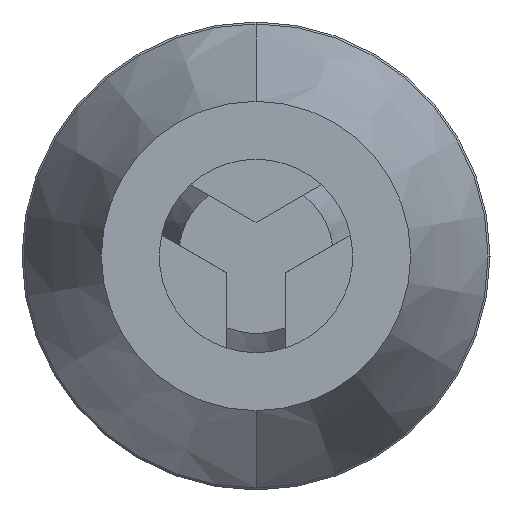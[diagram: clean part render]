
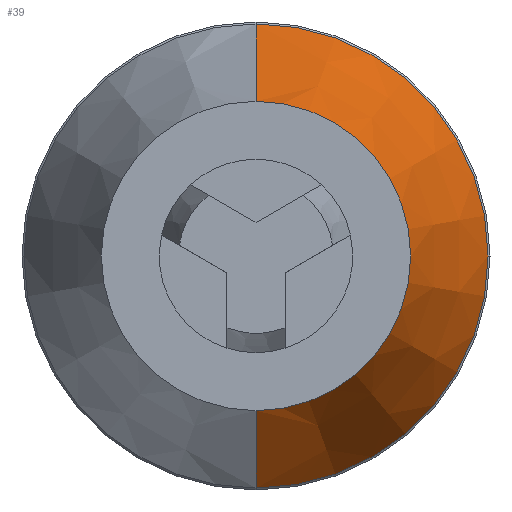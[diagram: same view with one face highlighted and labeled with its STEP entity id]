
A CAD part, front view. The second image highlights one B-rep face of the part: STEP entity #39.
In plain terms, the highlighted conical face has half-angle 20.674 degrees and reference radius 12 mm.
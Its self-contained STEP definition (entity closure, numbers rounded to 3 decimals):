
#2 = VERTEX_POINT ( 'NONE', #140 ) ;
#3 = VERTEX_POINT ( 'NONE', #142 ) ;
#5 = ORIENTED_EDGE ( 'NONE', *, *, #52, .F. ) ;
#7 = ORIENTED_EDGE ( 'NONE', *, *, #17, .F. ) ;
#17 = EDGE_CURVE ( 'NONE', #19, #2, #363, .T. ) ;
#19 = VERTEX_POINT ( 'NONE', #359 ) ;
#20 = EDGE_CURVE ( 'NONE', #21, #3, #358, .T. ) ;
#21 = VERTEX_POINT ( 'NONE', #354 ) ;
#23 = ORIENTED_EDGE ( 'NONE', *, *, #20, .T. ) ;
#29 = EDGE_LOOP ( 'NONE', ( #45, #23, #5, #7 ) ) ;
#39 = ADVANCED_FACE ( 'NONE', ( #392 ), #390, .T. ) ;
#40 = EDGE_CURVE ( 'NONE', #19, #21, #386, .T. ) ;
#45 = ORIENTED_EDGE ( 'NONE', *, *, #40, .T. ) ;
#52 = EDGE_CURVE ( 'NONE', #2, #3, #425, .T. ) ;
#140 = CARTESIAN_POINT ( 'NONE',  ( 0., 0.651, 12. ) ) ;
#142 = CARTESIAN_POINT ( 'NONE',  ( 0., 0.651, -12. ) ) ;
#354 = CARTESIAN_POINT ( 'NONE',  ( 0., -9.949, -8. ) ) ;
#355 = DIRECTION ( 'NONE',  ( 0., 0.936, -0.353 ) ) ;
#356 = VECTOR ( 'NONE', #355, 1000. ) ;
#357 = CARTESIAN_POINT ( 'NONE',  ( 0., 0.651, -12. ) ) ;
#358 = LINE ( 'NONE', #357, #356 ) ;
#359 = CARTESIAN_POINT ( 'NONE',  ( 0., -9.949, 8. ) ) ;
#360 = DIRECTION ( 'NONE',  ( 0., 0.936, 0.353 ) ) ;
#361 = VECTOR ( 'NONE', #360, 1000. ) ;
#362 = CARTESIAN_POINT ( 'NONE',  ( 0., 0.651, 12. ) ) ;
#363 = LINE ( 'NONE', #362, #361 ) ;
#382 = DIRECTION ( 'NONE',  ( 0., 0., 1. ) ) ;
#383 = DIRECTION ( 'NONE',  ( 0., 1., 0. ) ) ;
#384 = CARTESIAN_POINT ( 'NONE',  ( 0., -9.949, 0. ) ) ;
#385 = AXIS2_PLACEMENT_3D ( 'NONE', #384, #383, #382 ) ;
#386 = CIRCLE ( 'NONE', #385, 8. ) ;
#387 = DIRECTION ( 'NONE',  ( 0., 0., 1. ) ) ;
#388 = DIRECTION ( 'NONE',  ( 0., 1., 0. ) ) ;
#389 = AXIS2_PLACEMENT_3D ( 'NONE', #391, #388, #387 ) ;
#390 = CONICAL_SURFACE ( 'NONE', #389, 12., 0.361 ) ;
#391 = CARTESIAN_POINT ( 'NONE',  ( 0., 0.651, 0. ) ) ;
#392 = FACE_OUTER_BOUND ( 'NONE', #29, .T. ) ;
#421 = DIRECTION ( 'NONE',  ( 0., 0., 1. ) ) ;
#422 = DIRECTION ( 'NONE',  ( 0., 1., 0. ) ) ;
#423 = CARTESIAN_POINT ( 'NONE',  ( 0., 0.651, 0. ) ) ;
#424 = AXIS2_PLACEMENT_3D ( 'NONE', #423, #422, #421 ) ;
#425 = CIRCLE ( 'NONE', #424, 12. ) ;
